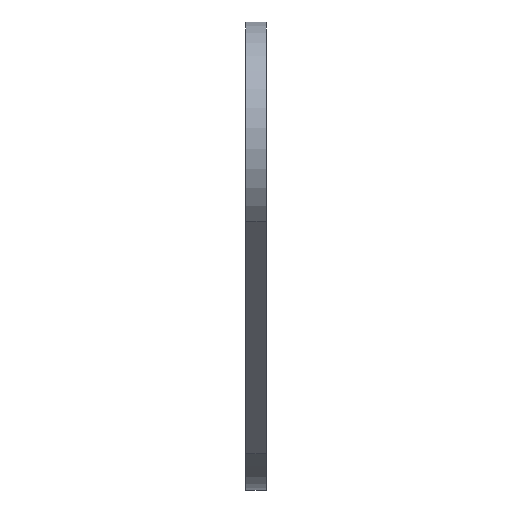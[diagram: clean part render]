
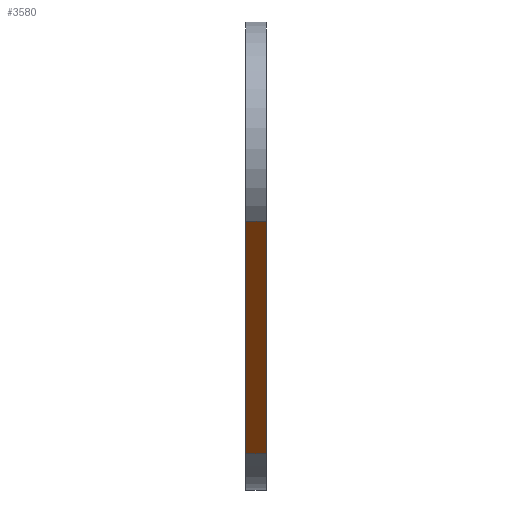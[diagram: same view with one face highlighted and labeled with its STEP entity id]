
A CAD part, left-side view. The second image highlights one B-rep face of the part: STEP entity #3580.
In plain terms, the highlighted planar face has unit normal (-0.707, 0, -0.707).
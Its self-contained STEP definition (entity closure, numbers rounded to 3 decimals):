
#110 = CARTESIAN_POINT ( 'NONE',  ( 36.408, 5., -76.713 ) ) ;
#267 = ORIENTED_EDGE ( 'NONE', *, *, #2137, .F. ) ;
#433 = DIRECTION ( 'NONE',  ( 0.707, 0., -0.707 ) ) ;
#664 = LINE ( 'NONE', #1081, #4319 ) ;
#769 = VERTEX_POINT ( 'NONE', #4508 ) ;
#863 = VERTEX_POINT ( 'NONE', #4177 ) ;
#872 = CARTESIAN_POINT ( 'NONE',  ( 36.408, 0., -76.713 ) ) ;
#887 = EDGE_CURVE ( 'NONE', #769, #2435, #3799, .T. ) ;
#1081 = CARTESIAN_POINT ( 'NONE',  ( -20.153, 0., -20.153 ) ) ;
#1140 = PLANE ( 'NONE',  #3840 ) ;
#1149 = ORIENTED_EDGE ( 'NONE', *, *, #887, .T. ) ;
#1167 = FACE_OUTER_BOUND ( 'NONE', #3965, .T. ) ;
#1190 = DIRECTION ( 'NONE',  ( -0.707, 0., 0.707 ) ) ;
#1587 = EDGE_CURVE ( 'NONE', #863, #769, #1602, .T. ) ;
#1602 = LINE ( 'NONE', #2051, #4096 ) ;
#2051 = CARTESIAN_POINT ( 'NONE',  ( -20.153, 5., -20.153 ) ) ;
#2071 = DIRECTION ( 'NONE',  ( 0.707, 0., -0.707 ) ) ;
#2137 = EDGE_CURVE ( 'NONE', #863, #4114, #4282, .T. ) ;
#2226 = ORIENTED_EDGE ( 'NONE', *, *, #4846, .F. ) ;
#2411 = CARTESIAN_POINT ( 'NONE',  ( -20.153, 5., -20.153 ) ) ;
#2435 = VERTEX_POINT ( 'NONE', #872 ) ;
#2654 = DIRECTION ( 'NONE',  ( 0., -1., 0. ) ) ;
#2794 = CARTESIAN_POINT ( 'NONE',  ( -20.153, 0., -20.153 ) ) ;
#2823 = VECTOR ( 'NONE', #3902, 1000. ) ;
#3364 = VECTOR ( 'NONE', #2654, 1000. ) ;
#3580 = ADVANCED_FACE ( 'NONE', ( #1167 ), #1140, .T. ) ;
#3799 = LINE ( 'NONE', #110, #3364 ) ;
#3840 = AXIS2_PLACEMENT_3D ( 'NONE', #4202, #4580, #1190 ) ;
#3902 = DIRECTION ( 'NONE',  ( 0., -1., 0. ) ) ;
#3965 = EDGE_LOOP ( 'NONE', ( #4140, #1149, #2226, #267 ) ) ;
#4096 = VECTOR ( 'NONE', #2071, 1000. ) ;
#4114 = VERTEX_POINT ( 'NONE', #2794 ) ;
#4140 = ORIENTED_EDGE ( 'NONE', *, *, #1587, .T. ) ;
#4177 = CARTESIAN_POINT ( 'NONE',  ( -20.153, 5., -20.153 ) ) ;
#4202 = CARTESIAN_POINT ( 'NONE',  ( -20.153, 5., -20.153 ) ) ;
#4282 = LINE ( 'NONE', #2411, #2823 ) ;
#4319 = VECTOR ( 'NONE', #433, 1000. ) ;
#4508 = CARTESIAN_POINT ( 'NONE',  ( 36.408, 5., -76.713 ) ) ;
#4580 = DIRECTION ( 'NONE',  ( -0.707, 0., -0.707 ) ) ;
#4846 = EDGE_CURVE ( 'NONE', #4114, #2435, #664, .T. ) ;
